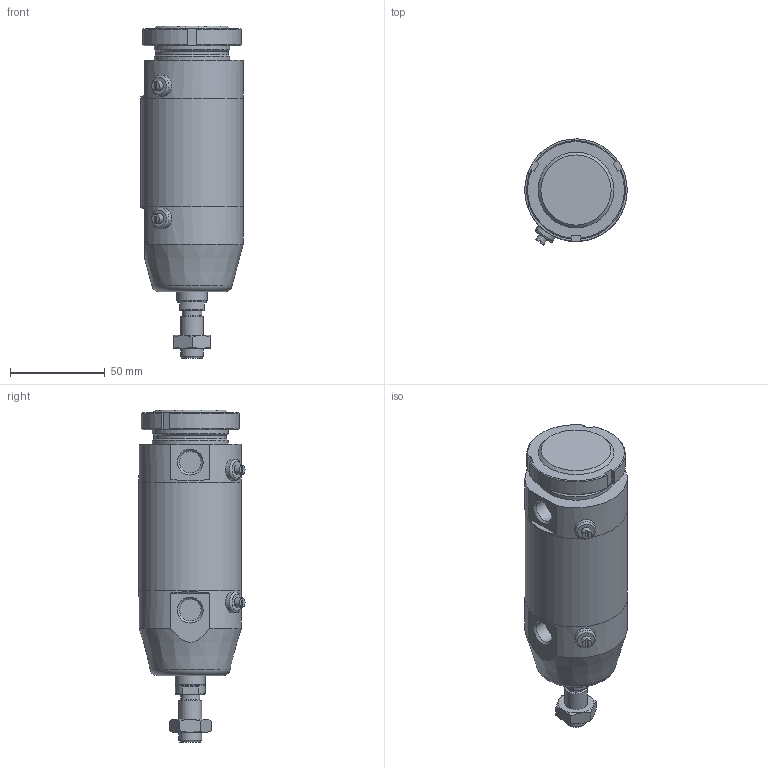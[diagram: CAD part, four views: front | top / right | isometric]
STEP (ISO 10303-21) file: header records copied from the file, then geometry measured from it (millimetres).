
FILE_DESCRIPTION(/* description */ (''),/* implementation_level */ '2;1');
FILE_NAME(/* name */ 'I:\Area Tecnica\Documenti\A-Manieri\_Inventor\12X\12X#B_###_####_#_#\12XBB_050_0015_#_#.stp',/* time_stamp */ '2015-04-28T14:28:20+02:00',/* author */ ('maniean1'),/* organization */ ('Pneumax S.p.A.'),/* preprocessor_version */ 'ST-DEVELOPER v15.2',/* originating_system */ 'Autodesk Inventor 2014',/* authorisation */ '');
FILE_SCHEMA (('AUTOMOTIVE_DESIGN { 1 0 10303 214 3 1 1 }'));
Length unit declared in the file: millimetre
Products named in the file (7): C1250_619-0015; 12X50_614; S12X50_0015; 12X_50_11; 12X50_621; G12X_050_05; 12XBB_050_0015_#_#
Bounding box: 54 x 55.88 x 175 mm (x, y, z)
Volume: 275465.4 mm3; surface area: 63037.2 mm2
Topology: 6 solids, 6 shells, 98 faces, 217 edges, 140 vertices
Faces by surface type: plane 52, cylinder 24, cone 19, torus 3
Full cylindrical faces by diameter (mm): 5 x2, 10.2 x1, 11 x2, 11.4 x2, 12 x2, 14 x1, 15.6 x1, 16 x1, 38.2 x1, 40 x3, 50 x2, 54 x3
Entity records: 2646 total; most frequent: CARTESIAN_POINT 539, DIRECTION 439, ORIENTED_EDGE 346, AXIS2_PLACEMENT_3D 186, EDGE_CURVE 173, EDGE_LOOP 150, VERTEX_POINT 131, ADVANCED_FACE 98
